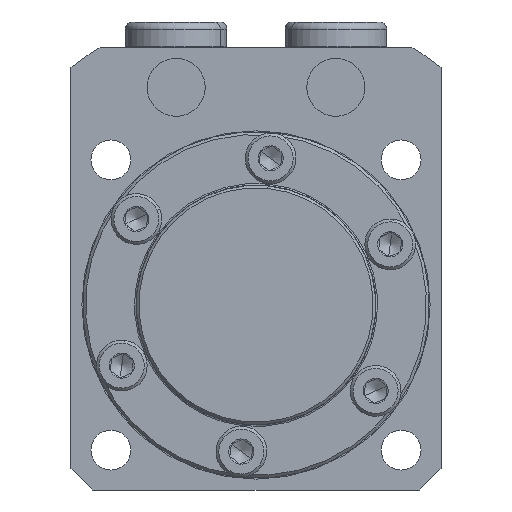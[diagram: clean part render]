
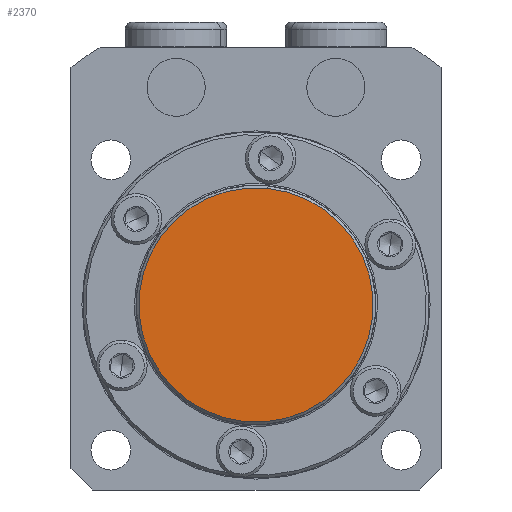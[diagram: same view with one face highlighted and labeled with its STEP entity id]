
A CAD part, front view. The second image highlights one B-rep face of the part: STEP entity #2370.
In plain terms, the highlighted planar face has unit normal (0, -1, 0).
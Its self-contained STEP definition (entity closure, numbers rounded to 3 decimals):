
#257 = ORIENTED_EDGE ( 'NONE', *, *, #1023, .T. ) ;
#418 = EDGE_CURVE ( 'NONE', #886, #3199, #615, .T. ) ;
#615 = CIRCLE ( 'NONE', #1810, 16.15 ) ;
#665 = DIRECTION ( 'NONE',  ( 0., -1., 0. ) ) ;
#886 = VERTEX_POINT ( 'NONE', #1734 ) ;
#1023 = EDGE_CURVE ( 'NONE', #3199, #886, #6010, .T. ) ;
#1647 = FACE_OUTER_BOUND ( 'NONE', #4653, .T. ) ;
#1734 = CARTESIAN_POINT ( 'NONE',  ( 0., -8.5, 16.15 ) ) ;
#1810 = AXIS2_PLACEMENT_3D ( 'NONE', #2120, #6124, #2688 ) ;
#2120 = CARTESIAN_POINT ( 'NONE',  ( 0., -8.5, 0. ) ) ;
#2370 = ADVANCED_FACE ( 'NONE', ( #1647 ), #5795, .T. ) ;
#2394 = CARTESIAN_POINT ( 'NONE',  ( 0., -8.5, 0. ) ) ;
#2688 = DIRECTION ( 'NONE',  ( 0., 0., -1. ) ) ;
#2969 = DIRECTION ( 'NONE',  ( 0., 0., -1. ) ) ;
#3199 = VERTEX_POINT ( 'NONE', #6967 ) ;
#3437 = AXIS2_PLACEMENT_3D ( 'NONE', #2394, #6406, #2969 ) ;
#4077 = CARTESIAN_POINT ( 'NONE',  ( 0., -8.5, 0. ) ) ;
#4295 = AXIS2_PLACEMENT_3D ( 'NONE', #4077, #665, #4654 ) ;
#4653 = EDGE_LOOP ( 'NONE', ( #7051, #257 ) ) ;
#4654 = DIRECTION ( 'NONE',  ( 0., 0., -1. ) ) ;
#5795 = PLANE ( 'NONE',  #4295 ) ;
#6010 = CIRCLE ( 'NONE', #3437, 16.15 ) ;
#6124 = DIRECTION ( 'NONE',  ( 0., -1., 0. ) ) ;
#6406 = DIRECTION ( 'NONE',  ( 0., -1., 0. ) ) ;
#6967 = CARTESIAN_POINT ( 'NONE',  ( 0., -8.5, -16.15 ) ) ;
#7051 = ORIENTED_EDGE ( 'NONE', *, *, #418, .T. ) ;
